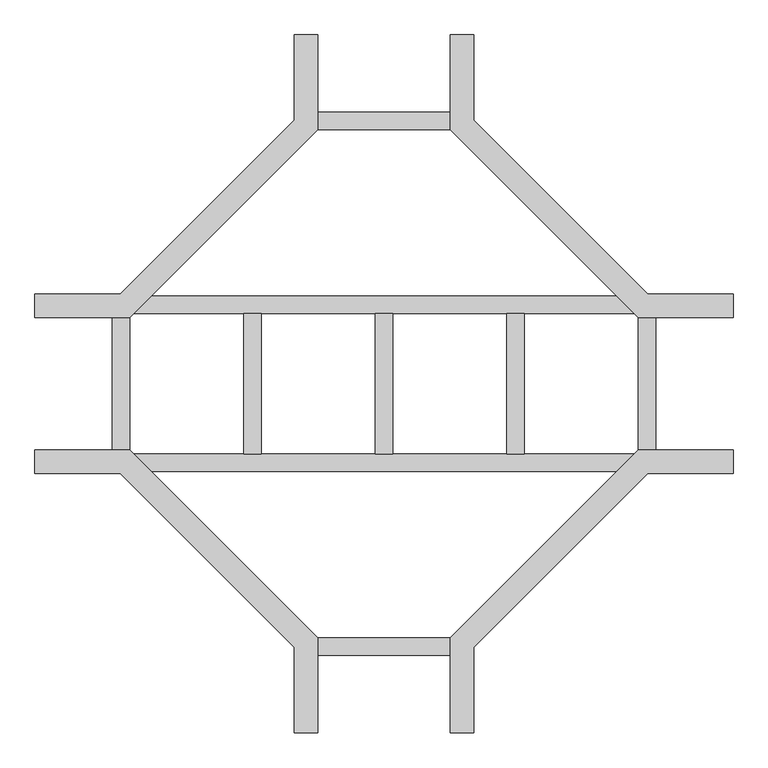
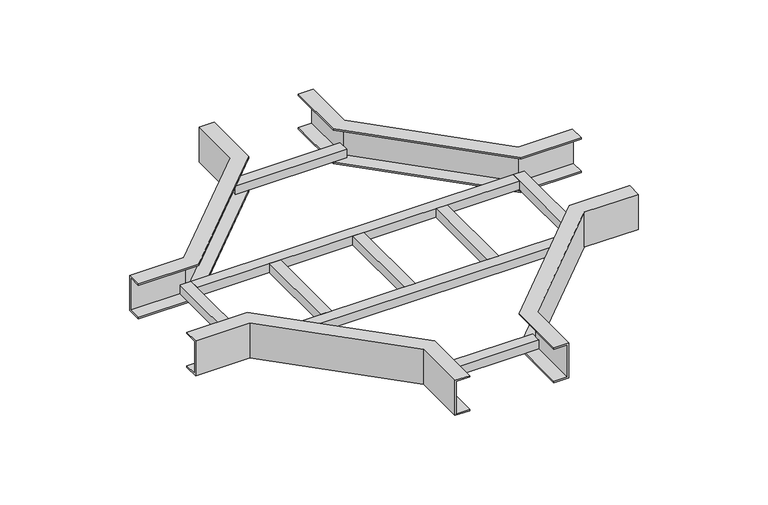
"""IFC4 building model written with IfcOpenShell, lengths in millimetres: cable carrier fitting geometry, CREFV_Horizontal Cross-Over-Fibertrav : Fibertrav CREFV-12."""

from ifc_helpers import new_model, si_unit, frame, origin, place, context, project, spatial, polyline, outline, extrude, faceted_brep, source, transform, mapped, element, save


def cable_carrier_fitting_e89e6434(model_context):
    return source(origin(), model_context, "Body", "SolidModel", [
        faceted_brep([(607.2, 156.4, -50.8), (607.2, 156.4, 50.8), (607.2, 115.4, 50.8), (607.2, 115.4, 46.8), (607.2, 152.4, 46.8), (607.2, 152.4, -46.8), (607.2, 115.4, -46.8), (607.2, 115.4, -50.8), (156.4, 607.2, -50.8), (115.4, 607.2, -50.8), (115.4, 607.2, -46.8), (152.4, 607.2, -46.8), (152.4, 607.2, 46.8), (115.4, 607.2, 46.8), (115.4, 607.2, 50.8), (156.4, 607.2, 50.8), (458.8568542, 156.4, 50.8), (156.4, 458.8568542, 50.8), (115.4, 441.8740982, 50.8), (441.8740982, 115.4, 50.8), (441.8740982, 115.4, 46.8), (115.4, 441.8740982, 46.8), (152.4, 457.2, 46.8), (457.2, 152.4, 46.8), (457.2, 152.4, -46.8), (152.4, 457.2, -46.8), (115.4, 441.8740982, -46.8), (441.8740982, 115.4, -46.8), (441.8740982, 115.4, -50.8), (115.4, 441.8740982, -50.8), (156.4, 458.8568542, -50.8), (458.8568542, 156.4, -50.8)], [[[0, 1, 2, 3, 4, 5, 6, 7]], [[8, 9, 10, 11, 12, 13, 14, 15]], [[2, 1, 16, 17, 15, 14, 18, 19]], [[3, 2, 19, 20]], [[4, 3, 20, 21, 13, 12, 22, 23]], [[5, 4, 23, 24]], [[6, 5, 24, 25, 11, 10, 26, 27]], [[7, 6, 27, 28]], [[0, 7, 28, 29, 9, 8, 30, 31]], [[1, 0, 31, 16]], [[21, 18, 14, 13]], [[25, 22, 12, 11]], [[29, 26, 10, 9]], [[17, 30, 8, 15]], [[16, 31, 30, 17]], [[20, 19, 18, 21]], [[24, 23, 22, 25]], [[28, 27, 26, 29]]]),
        faceted_brep([(-156.4, 607.2, -50.8), (-156.4, 607.2, 50.8), (-115.4, 607.2, 50.8), (-115.4, 607.2, 46.8), (-152.4, 607.2, 46.8), (-152.4, 607.2, -46.8), (-115.4, 607.2, -46.8), (-115.4, 607.2, -50.8), (-607.2, 156.4, -50.8), (-607.2, 115.4, -50.8), (-607.2, 115.4, -46.8), (-607.2, 152.4, -46.8), (-607.2, 152.4, 46.8), (-607.2, 115.4, 46.8), (-607.2, 115.4, 50.8), (-607.2, 156.4, 50.8), (-156.4, 458.8568542, 50.8), (-458.8568542, 156.4, 50.8), (-441.8740982, 115.4, 50.8), (-115.4, 441.8740982, 50.8), (-115.4, 441.8740982, 46.8), (-441.8740982, 115.4, 46.8), (-457.2, 152.4, 46.8), (-152.4, 457.2, 46.8), (-152.4, 457.2, -46.8), (-457.2, 152.4, -46.8), (-441.8740982, 115.4, -46.8), (-115.4, 441.8740982, -46.8), (-115.4, 441.8740982, -50.8), (-441.8740982, 115.4, -50.8), (-458.8568542, 156.4, -50.8), (-156.4, 458.8568542, -50.8)], [[[0, 1, 2, 3, 4, 5, 6, 7]], [[8, 9, 10, 11, 12, 13, 14, 15]], [[2, 1, 16, 17, 15, 14, 18, 19]], [[3, 2, 19, 20]], [[4, 3, 20, 21, 13, 12, 22, 23]], [[5, 4, 23, 24]], [[6, 5, 24, 25, 11, 10, 26, 27]], [[7, 6, 27, 28]], [[0, 7, 28, 29, 9, 8, 30, 31]], [[1, 0, 31, 16]], [[21, 18, 14, 13]], [[25, 22, 12, 11]], [[29, 26, 10, 9]], [[17, 30, 8, 15]], [[16, 31, 30, 17]], [[20, 19, 18, 21]], [[24, 23, 22, 25]], [[28, 27, 26, 29]]]),
        faceted_brep([(156.4, -607.2, -50.8), (156.4, -607.2, 50.8), (115.4, -607.2, 50.8), (115.4, -607.2, 46.8), (152.4, -607.2, 46.8), (152.4, -607.2, -46.8), (115.4, -607.2, -46.8), (115.4, -607.2, -50.8), (607.2, -156.4, -50.8), (607.2, -115.4, -50.8), (607.2, -115.4, -46.8), (607.2, -152.4, -46.8), (607.2, -152.4, 46.8), (607.2, -115.4, 46.8), (607.2, -115.4, 50.8), (607.2, -156.4, 50.8), (156.4, -458.8568542, 50.8), (458.8568542, -156.4, 50.8), (441.8740982, -115.4, 50.8), (115.4, -441.8740982, 50.8), (115.4, -441.8740982, 46.8), (441.8740982, -115.4, 46.8), (457.2, -152.4, 46.8), (152.4, -457.2, 46.8), (152.4, -457.2, -46.8), (457.2, -152.4, -46.8), (441.8740982, -115.4, -46.8), (115.4, -441.8740982, -46.8), (115.4, -441.8740982, -50.8), (441.8740982, -115.4, -50.8), (458.8568542, -156.4, -50.8), (156.4, -458.8568542, -50.8)], [[[0, 1, 2, 3, 4, 5, 6, 7]], [[8, 9, 10, 11, 12, 13, 14, 15]], [[2, 1, 16, 17, 15, 14, 18, 19]], [[3, 2, 19, 20]], [[4, 3, 20, 21, 13, 12, 22, 23]], [[5, 4, 23, 24]], [[6, 5, 24, 25, 11, 10, 26, 27]], [[7, 6, 27, 28]], [[0, 7, 28, 29, 9, 8, 30, 31]], [[1, 0, 31, 16]], [[21, 18, 14, 13]], [[25, 22, 12, 11]], [[29, 26, 10, 9]], [[17, 30, 8, 15]], [[16, 31, 30, 17]], [[20, 19, 18, 21]], [[24, 23, 22, 25]], [[28, 27, 26, 29]]]),
        faceted_brep([(-607.2, -156.4, -50.8), (-607.2, -156.4, 50.8), (-607.2, -115.4, 50.8), (-607.2, -115.4, 46.8), (-607.2, -152.4, 46.8), (-607.2, -152.4, -46.8), (-607.2, -115.4, -46.8), (-607.2, -115.4, -50.8), (-156.4, -607.2, -50.8), (-115.4, -607.2, -50.8), (-115.4, -607.2, -46.8), (-152.4, -607.2, -46.8), (-152.4, -607.2, 46.8), (-115.4, -607.2, 46.8), (-115.4, -607.2, 50.8), (-156.4, -607.2, 50.8), (-458.8568542, -156.4, 50.8), (-156.4, -458.8568542, 50.8), (-115.4, -441.8740982, 50.8), (-441.8740982, -115.4, 50.8), (-441.8740982, -115.4, 46.8), (-115.4, -441.8740982, 46.8), (-152.4, -457.2, 46.8), (-457.2, -152.4, 46.8), (-457.2, -152.4, -46.8), (-152.4, -457.2, -46.8), (-115.4, -441.8740982, -46.8), (-441.8740982, -115.4, -46.8), (-441.8740982, -115.4, -50.8), (-115.4, -441.8740982, -50.8), (-156.4, -458.8568542, -50.8), (-458.8568542, -156.4, -50.8)], [[[0, 1, 2, 3, 4, 5, 6, 7]], [[8, 9, 10, 11, 12, 13, 14, 15]], [[2, 1, 16, 17, 15, 14, 18, 19]], [[3, 2, 19, 20]], [[4, 3, 20, 21, 13, 12, 22, 23]], [[5, 4, 23, 24]], [[6, 5, 24, 25, 11, 10, 26, 27]], [[7, 6, 27, 28]], [[0, 7, 28, 29, 9, 8, 30, 31]], [[1, 0, 31, 16]], [[21, 18, 14, 13]], [[25, 22, 12, 11]], [[29, 26, 10, 9]], [[17, 30, 8, 15]], [[16, 31, 30, 17]], [[20, 19, 18, 21]], [[24, 23, 22, 25]], [[28, 27, 26, 29]]]),
        extrude(outline(polyline([(152.4, -472.45), (-152.4, -472.45), (-152.4, -441.95), (152.4, -441.95), (152.4, -472.45)])), frame((0.0, 0.0, -46.8), z_axis=(0.0, 0.0, 1.0), x_axis=(1.0, 0.0, 0.0)), (0.0, 0.0, 1.0), 25.4),
        extrude(outline(polyline([(152.4, 472.45), (152.4, 441.95), (-152.4, 441.95), (-152.4, 472.45), (152.4, 472.45)])), frame((0.0, 0.0, -46.8), z_axis=(0.0, 0.0, 1.0), x_axis=(1.0, 0.0, 0.0)), (0.0, 0.0, 1.0), 25.4),
        extrude(outline(polyline([(472.45, 152.4), (472.45, -152.4), (441.95, -152.4), (441.95, 152.4), (472.45, 152.4)])), frame((0.0, 0.0, -46.8), z_axis=(0.0, 0.0, 1.0), x_axis=(1.0, 0.0, 0.0)), (0.0, 0.0, 1.0), 25.4),
        extrude(outline(polyline([(243.85, 121.9), (243.85, -121.9), (213.35, -121.9), (213.35, 121.9), (243.85, 121.9)])), frame((0.0, 0.0, -46.8), z_axis=(0.0, 0.0, 1.0), x_axis=(1.0, 0.0, 0.0)), (0.0, 0.0, 1.0), 25.4),
        extrude(outline(polyline([(15.25, 121.9), (15.25, -121.9), (-15.25, -121.9), (-15.25, 121.9), (15.25, 121.9)])), frame((0.0, 0.0, -46.8), z_axis=(0.0, 0.0, 1.0), x_axis=(1.0, 0.0, 0.0)), (0.0, 0.0, 1.0), 25.4),
        extrude(outline(polyline([(-213.35, 121.9), (-213.35, -121.9), (-243.85, -121.9), (-243.85, 121.9), (-213.35, 121.9)])), frame((0.0, 0.0, -46.8), z_axis=(0.0, 0.0, 1.0), x_axis=(1.0, 0.0, 0.0)), (0.0, 0.0, 1.0), 25.4),
        extrude(outline(polyline([(-441.95, 152.4), (-441.95, -152.4), (-472.45, -152.4), (-472.45, 152.4), (-441.95, 152.4)])), frame((0.0, 0.0, -46.8), z_axis=(0.0, 0.0, 1.0), x_axis=(1.0, 0.0, 0.0)), (0.0, 0.0, 1.0), 25.4),
        extrude(outline(polyline([(441.95, -121.9), (441.95, -152.4), (-441.95, -152.4), (-441.95, -121.9), (441.95, -121.9)])), frame((0.0, 0.0, -46.8), z_axis=(0.0, 0.0, 1.0), x_axis=(1.0, 0.0, 0.0)), (0.0, 0.0, 1.0), 25.4),
        extrude(outline(polyline([(441.95, 152.4), (441.95, 121.9), (-441.95, 121.9), (-441.95, 152.4), (441.95, 152.4)])), frame((0.0, 0.0, -46.8), z_axis=(0.0, 0.0, 1.0), x_axis=(1.0, 0.0, 0.0)), (0.0, 0.0, 1.0), 25.4),
    ])


if __name__ == "__main__":
    model = new_model("IFC4")
    model_context = context("Model", 3, world=origin())
    ifc_project = project(units=[si_unit("LENGTHUNIT", "METRE", prefix="MILLI")], contexts=[model_context])
    site = spatial("IfcSite", under=ifc_project)
    building = spatial("IfcBuilding", under=site)
    placement = place(None, origin())
    cable_carrier_fitting_shape = cable_carrier_fitting_e89e6434(model_context)
    element("IfcCableCarrierFitting", 1, ObjectType="CREFV_Horizontal Cross-Over-Fibertrav : Fibertrav CREFV-12", at=placement, inside=building, context=model_context, shape_type="MappedRepresentation", body=[
        mapped(cable_carrier_fitting_shape, transform((0.0, 0.0, 0.0), x_axis=(1.0, 0.0, 0.0), y_axis=(0.0, 1.0, 0.0), z_axis=(0.0, 0.0, 1.0))),
    ])
    save(model, "model.ifc")
